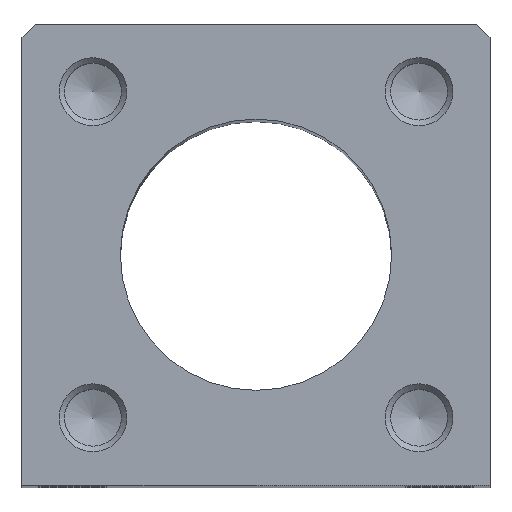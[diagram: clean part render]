
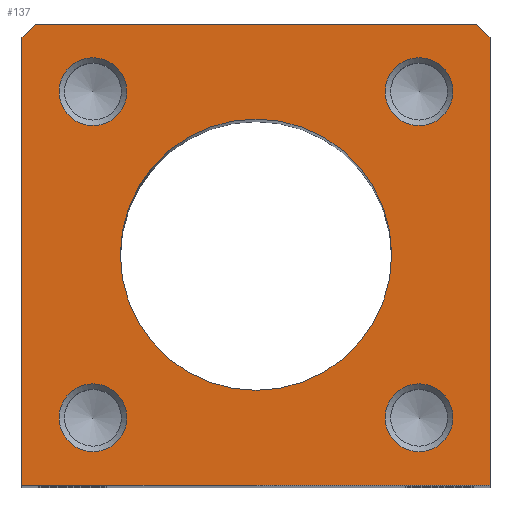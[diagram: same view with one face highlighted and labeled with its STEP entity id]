
A CAD part, top view. The second image highlights one B-rep face of the part: STEP entity #137.
In plain terms, the highlighted planar face has unit normal (0, 0, 1).
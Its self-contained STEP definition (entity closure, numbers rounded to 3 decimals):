
#137 = ADVANCED_FACE( '', ( #331, #332, #333, #334, #335, #336 ), #337, .F. );
#331 = FACE_BOUND( '', #600, .T. );
#332 = FACE_BOUND( '', #601, .T. );
#333 = FACE_BOUND( '', #602, .T. );
#334 = FACE_BOUND( '', #603, .T. );
#335 = FACE_BOUND( '', #604, .T. );
#336 = FACE_OUTER_BOUND( '', #605, .T. );
#337 = PLANE( '', #606 );
#600 = EDGE_LOOP( '', ( #919 ) );
#601 = EDGE_LOOP( '', ( #920 ) );
#602 = EDGE_LOOP( '', ( #921 ) );
#603 = EDGE_LOOP( '', ( #922 ) );
#604 = EDGE_LOOP( '', ( #923 ) );
#605 = EDGE_LOOP( '', ( #924, #925, #926, #927, #928, #929 ) );
#606 = AXIS2_PLACEMENT_3D( '', #930, #931, #932 );
#919 = ORIENTED_EDGE( '', *, *, #1256, .T. );
#920 = ORIENTED_EDGE( '', *, *, #1230, .T. );
#921 = ORIENTED_EDGE( '', *, *, #1220, .F. );
#922 = ORIENTED_EDGE( '', *, *, #1247, .F. );
#923 = ORIENTED_EDGE( '', *, *, #1257, .T. );
#924 = ORIENTED_EDGE( '', *, *, #1217, .F. );
#925 = ORIENTED_EDGE( '', *, *, #1258, .T. );
#926 = ORIENTED_EDGE( '', *, *, #1259, .F. );
#927 = ORIENTED_EDGE( '', *, *, #1260, .F. );
#928 = ORIENTED_EDGE( '', *, *, #1261, .F. );
#929 = ORIENTED_EDGE( '', *, *, #1262, .T. );
#930 = CARTESIAN_POINT( '', ( -34.5, 34., 0. ) );
#931 = DIRECTION( '', ( 0., 0., -1. ) );
#932 = DIRECTION( '', ( 0., 1., 0. ) );
#1217 = EDGE_CURVE( '', #1384, #1386, #1387, .T. );
#1220 = EDGE_CURVE( '', #1390, #1390, #1391, .T. );
#1230 = EDGE_CURVE( '', #1406, #1406, #1407, .T. );
#1247 = EDGE_CURVE( '', #1434, #1434, #1435, .T. );
#1256 = EDGE_CURVE( '', #1446, #1446, #1447, .T. );
#1257 = EDGE_CURVE( '', #1448, #1448, #1449, .T. );
#1258 = EDGE_CURVE( '', #1384, #1450, #1451, .F. );
#1259 = EDGE_CURVE( '', #1452, #1450, #1453, .T. );
#1260 = EDGE_CURVE( '', #1454, #1452, #1455, .T. );
#1261 = EDGE_CURVE( '', #1456, #1454, #1457, .T. );
#1262 = EDGE_CURVE( '', #1456, #1386, #1458, .F. );
#1384 = VERTEX_POINT( '', #1596 );
#1386 = VERTEX_POINT( '', #1599 );
#1387 = LINE( '', #1600, #1601 );
#1390 = VERTEX_POINT( '', #1605 );
#1391 = CIRCLE( '', #1606, 5. );
#1406 = VERTEX_POINT( '', #1621 );
#1407 = CIRCLE( '', #1622, 5. );
#1434 = VERTEX_POINT( '', #1654 );
#1435 = CIRCLE( '', #1655, 5. );
#1446 = VERTEX_POINT( '', #1666 );
#1447 = CIRCLE( '', #1667, 20. );
#1448 = VERTEX_POINT( '', #1668 );
#1449 = CIRCLE( '', #1669, 5. );
#1450 = VERTEX_POINT( '', #1670 );
#1451 = LINE( '', #1671, #1672 );
#1452 = VERTEX_POINT( '', #1673 );
#1453 = LINE( '', #1674, #1675 );
#1454 = VERTEX_POINT( '', #1676 );
#1455 = LINE( '', #1677, #1678 );
#1456 = VERTEX_POINT( '', #1679 );
#1457 = LINE( '', #1680, #1681 );
#1458 = LINE( '', #1682, #1683 );
#1596 = CARTESIAN_POINT( '', ( -32.5, 34., 0. ) );
#1599 = CARTESIAN_POINT( '', ( 32.5, 34., 0. ) );
#1600 = CARTESIAN_POINT( '', ( -34.5, 34., 0. ) );
#1601 = VECTOR( '', #1829, 1000. );
#1605 = CARTESIAN_POINT( '', ( 19.042, -24.042, 0. ) );
#1606 = AXIS2_PLACEMENT_3D( '', #1831, #1832, #1833 );
#1621 = CARTESIAN_POINT( '', ( -19.042, -24.042, 0. ) );
#1622 = AXIS2_PLACEMENT_3D( '', #1849, #1850, #1851 );
#1654 = CARTESIAN_POINT( '', ( -19.042, 24.042, 0. ) );
#1655 = AXIS2_PLACEMENT_3D( '', #1875, #1876, #1877 );
#1666 = CARTESIAN_POINT( '', ( -20., 0., 0. ) );
#1667 = AXIS2_PLACEMENT_3D( '', #1887, #1888, #1889 );
#1668 = CARTESIAN_POINT( '', ( 19.042, 24.042, 0. ) );
#1669 = AXIS2_PLACEMENT_3D( '', #1890, #1891, #1892 );
#1670 = CARTESIAN_POINT( '', ( -34.5, 32., 0. ) );
#1671 = CARTESIAN_POINT( '', ( -32.5, 34., 0. ) );
#1672 = VECTOR( '', #1893, 1000. );
#1673 = CARTESIAN_POINT( '', ( -34.5, -34., 0. ) );
#1674 = CARTESIAN_POINT( '', ( -34.5, -34., 0. ) );
#1675 = VECTOR( '', #1894, 1000. );
#1676 = CARTESIAN_POINT( '', ( 34.5, -34., 0. ) );
#1677 = CARTESIAN_POINT( '', ( 34.5, -34., 0. ) );
#1678 = VECTOR( '', #1895, 1000. );
#1679 = CARTESIAN_POINT( '', ( 34.5, 32., 0. ) );
#1680 = CARTESIAN_POINT( '', ( 34.5, 34., 0. ) );
#1681 = VECTOR( '', #1896, 1000. );
#1682 = CARTESIAN_POINT( '', ( 34.5, 32., 0. ) );
#1683 = VECTOR( '', #1897, 1000. );
#1829 = DIRECTION( '', ( 1., 0., 0. ) );
#1831 = CARTESIAN_POINT( '', ( 24.042, -24.042, 0. ) );
#1832 = DIRECTION( '', ( 0., 0., 1. ) );
#1833 = DIRECTION( '', ( -1., 0., 0. ) );
#1849 = CARTESIAN_POINT( '', ( -24.042, -24.042, 0. ) );
#1850 = DIRECTION( '', ( 0., 0., -1. ) );
#1851 = DIRECTION( '', ( 1., 0., 0. ) );
#1875 = CARTESIAN_POINT( '', ( -24.042, 24.042, 0. ) );
#1876 = DIRECTION( '', ( 0., 0., 1. ) );
#1877 = DIRECTION( '', ( 1., 0., 0. ) );
#1887 = CARTESIAN_POINT( '', ( 0., 0., 0. ) );
#1888 = DIRECTION( '', ( 0., 0., -1. ) );
#1889 = DIRECTION( '', ( -1., 0., 0. ) );
#1890 = CARTESIAN_POINT( '', ( 24.042, 24.042, 0. ) );
#1891 = DIRECTION( '', ( 0., 0., -1. ) );
#1892 = DIRECTION( '', ( -1., 0., 0. ) );
#1893 = DIRECTION( '', ( 0.707, 0.707, 0. ) );
#1894 = DIRECTION( '', ( 0., 1., 0. ) );
#1895 = DIRECTION( '', ( -1., 0., 0. ) );
#1896 = DIRECTION( '', ( 0., -1., 0. ) );
#1897 = DIRECTION( '', ( 0.707, -0.707, 0. ) );
